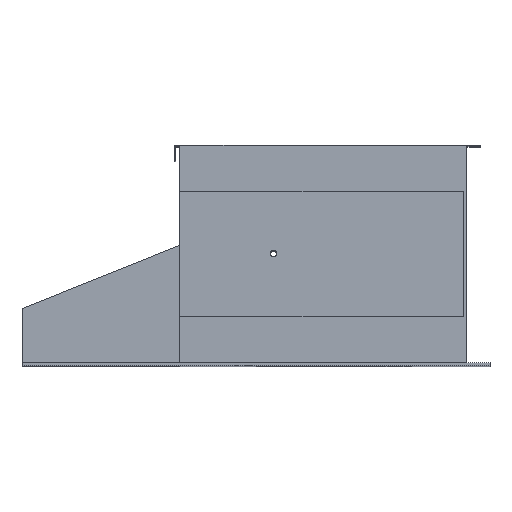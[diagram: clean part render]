
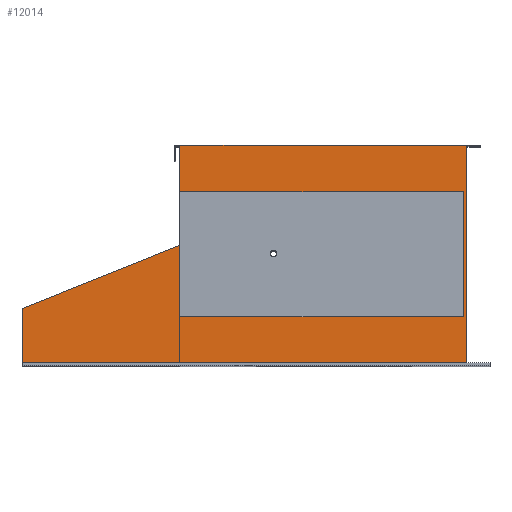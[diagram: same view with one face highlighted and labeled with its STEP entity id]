
A CAD part, top view. The second image highlights one B-rep face of the part: STEP entity #12014.
In plain terms, the highlighted planar face has unit normal (0, 0, 1).
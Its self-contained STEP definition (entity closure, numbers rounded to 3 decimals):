
#653 = CARTESIAN_POINT ( 'NONE',  ( 0., 174.896, 343. ) ) ;
#886 = VECTOR ( 'NONE', #39958, 1000. ) ;
#1389 = VECTOR ( 'NONE', #22359, 1000. ) ;
#1621 = VERTEX_POINT ( 'NONE', #55503 ) ;
#1637 = CARTESIAN_POINT ( 'NONE',  ( 331.485, -97.895, 343. ) ) ;
#1677 = CARTESIAN_POINT ( 'NONE',  ( -122.515, -97.895, 343. ) ) ;
#2138 = DIRECTION ( 'NONE',  ( 0., 1., 0. ) ) ;
#2449 = CARTESIAN_POINT ( 'NONE',  ( -130.515, 176.605, 343. ) ) ;
#3207 = VERTEX_POINT ( 'NONE', #57571 ) ;
#4097 = ORIENTED_EDGE ( 'NONE', *, *, #53834, .F. ) ;
#4270 = LINE ( 'NONE', #11374, #5710 ) ;
#4754 = DIRECTION ( 'NONE',  ( 1., 0., 0. ) ) ;
#4891 = LINE ( 'NONE', #653, #29066 ) ;
#5242 = VECTOR ( 'NONE', #20216, 1000. ) ;
#5460 = EDGE_CURVE ( 'NONE', #26917, #9703, #29325, .T. ) ;
#5710 = VECTOR ( 'NONE', #2138, 1000. ) ;
#7270 = ORIENTED_EDGE ( 'NONE', *, *, #57152, .T. ) ;
#7460 = ORIENTED_EDGE ( 'NONE', *, *, #8383, .F. ) ;
#7783 = CARTESIAN_POINT ( 'NONE',  ( -375.515, -84.895, 343. ) ) ;
#7811 = CARTESIAN_POINT ( 'NONE',  ( 337.485, 174.896, 343. ) ) ;
#8018 = VECTOR ( 'NONE', #46943, 1000. ) ;
#8383 = EDGE_CURVE ( 'NONE', #14198, #27427, #34260, .T. ) ;
#8439 = CARTESIAN_POINT ( 'NONE',  ( 331.485, 102.105, 343. ) ) ;
#8626 = VECTOR ( 'NONE', #4754, 1000. ) ;
#8711 = CARTESIAN_POINT ( 'NONE',  ( -375.515, -171.895, 343. ) ) ;
#9281 = LINE ( 'NONE', #35616, #31956 ) ;
#9703 = VERTEX_POINT ( 'NONE', #7783 ) ;
#9797 = VERTEX_POINT ( 'NONE', #31181 ) ;
#10233 = VECTOR ( 'NONE', #53305, 1000. ) ;
#11306 = VERTEX_POINT ( 'NONE', #17584 ) ;
#11374 = CARTESIAN_POINT ( 'NONE',  ( 331.485, -97.895, 343. ) ) ;
#11449 = EDGE_CURVE ( 'NONE', #31908, #37898, #43063, .T. ) ;
#11999 = VERTEX_POINT ( 'NONE', #7811 ) ;
#12014 = ADVANCED_FACE ( 'NONE', ( #22233 ), #39360, .T. ) ;
#12644 = DIRECTION ( 'NONE',  ( 0., 0., 1. ) ) ;
#13056 = EDGE_CURVE ( 'NONE', #11999, #9797, #4891, .T. ) ;
#14034 = CARTESIAN_POINT ( 'NONE',  ( 337.485, -171.895, 343. ) ) ;
#14198 = VERTEX_POINT ( 'NONE', #2449 ) ;
#14567 = CARTESIAN_POINT ( 'NONE',  ( 0., -171.895, 343. ) ) ;
#14745 = VERTEX_POINT ( 'NONE', #16575 ) ;
#15128 = VECTOR ( 'NONE', #31201, 1000. ) ;
#15338 = CARTESIAN_POINT ( 'NONE',  ( -129.015, 174.896, 343. ) ) ;
#15364 = CARTESIAN_POINT ( 'NONE',  ( 359.485, 176.605, 343. ) ) ;
#16575 = CARTESIAN_POINT ( 'NONE',  ( -129.015, 151.605, 343. ) ) ;
#17331 = CARTESIAN_POINT ( 'NONE',  ( 359.485, 0., 343. ) ) ;
#17584 = CARTESIAN_POINT ( 'NONE',  ( 331.485, -97.895, 343. ) ) ;
#19988 = DIRECTION ( 'NONE',  ( 1., 0., 0. ) ) ;
#20216 = DIRECTION ( 'NONE',  ( 0., 1., 0. ) ) ;
#20306 = CARTESIAN_POINT ( 'NONE',  ( 337.485, 0., 343. ) ) ;
#21042 = CARTESIAN_POINT ( 'NONE',  ( -129.015, 0., 343. ) ) ;
#21628 = CARTESIAN_POINT ( 'NONE',  ( -122.515, -97.895, 343. ) ) ;
#22233 = FACE_OUTER_BOUND ( 'NONE', #23258, .T. ) ;
#22359 = DIRECTION ( 'NONE',  ( 0., -1., 0. ) ) ;
#22435 = VECTOR ( 'NONE', #52462, 1000. ) ;
#22961 = LINE ( 'NONE', #17331, #45119 ) ;
#23258 = EDGE_LOOP ( 'NONE', ( #7270, #47231, #41366, #39616, #56713, #7460, #4097, #57524, #33850, #33164, #44782, #54715, #26964, #30224, #45709, #38689 ) ) ;
#23484 = DIRECTION ( 'NONE',  ( 1., 0., 0. ) ) ;
#23576 = LINE ( 'NONE', #56307, #39567 ) ;
#23704 = EDGE_CURVE ( 'NONE', #1621, #3207, #35623, .T. ) ;
#25697 = AXIS2_PLACEMENT_3D ( 'NONE', #39551, #12644, #43944 ) ;
#26917 = VERTEX_POINT ( 'NONE', #50608 ) ;
#26964 = ORIENTED_EDGE ( 'NONE', *, *, #27471, .F. ) ;
#27427 = VERTEX_POINT ( 'NONE', #15364 ) ;
#27471 = EDGE_CURVE ( 'NONE', #11306, #1621, #4270, .T. ) ;
#27653 = LINE ( 'NONE', #20306, #49677 ) ;
#27918 = VERTEX_POINT ( 'NONE', #1677 ) ;
#28894 = DIRECTION ( 'NONE',  ( 1., 0., 0. ) ) ;
#29066 = VECTOR ( 'NONE', #23484, 1000. ) ;
#29323 = LINE ( 'NONE', #1637, #52708 ) ;
#29325 = LINE ( 'NONE', #46987, #8018 ) ;
#29669 = EDGE_CURVE ( 'NONE', #27427, #9797, #22961, .T. ) ;
#30224 = ORIENTED_EDGE ( 'NONE', *, *, #42647, .F. ) ;
#30777 = EDGE_CURVE ( 'NONE', #37898, #3207, #34712, .T. ) ;
#31181 = CARTESIAN_POINT ( 'NONE',  ( 359.485, 174.896, 343. ) ) ;
#31201 = DIRECTION ( 'NONE',  ( 0., 1., 0. ) ) ;
#31438 = CARTESIAN_POINT ( 'NONE',  ( 0., 176.605, 343. ) ) ;
#31908 = VERTEX_POINT ( 'NONE', #15338 ) ;
#31956 = VECTOR ( 'NONE', #53598, 1000. ) ;
#32331 = EDGE_CURVE ( 'NONE', #11999, #35714, #27653, .T. ) ;
#32843 = VERTEX_POINT ( 'NONE', #32987 ) ;
#32987 = CARTESIAN_POINT ( 'NONE',  ( -130.515, 151.605, 343. ) ) ;
#33164 = ORIENTED_EDGE ( 'NONE', *, *, #11449, .T. ) ;
#33850 = ORIENTED_EDGE ( 'NONE', *, *, #51039, .T. ) ;
#34260 = LINE ( 'NONE', #31438, #10233 ) ;
#34712 = LINE ( 'NONE', #48777, #1389 ) ;
#35616 = CARTESIAN_POINT ( 'NONE',  ( 0., 151.605, 343. ) ) ;
#35623 = LINE ( 'NONE', #8439, #886 ) ;
#35663 = CARTESIAN_POINT ( 'NONE',  ( -130.515, 0., 343. ) ) ;
#35714 = VERTEX_POINT ( 'NONE', #14034 ) ;
#36404 = CARTESIAN_POINT ( 'NONE',  ( 0., 174.896, 343. ) ) ;
#37898 = VERTEX_POINT ( 'NONE', #42332 ) ;
#38689 = ORIENTED_EDGE ( 'NONE', *, *, #5460, .T. ) ;
#39006 = LINE ( 'NONE', #35663, #15128 ) ;
#39027 = DIRECTION ( 'NONE',  ( 0., -1., 0. ) ) ;
#39360 = PLANE ( 'NONE',  #25697 ) ;
#39364 = EDGE_CURVE ( 'NONE', #48819, #35714, #49372, .T. ) ;
#39551 = CARTESIAN_POINT ( 'NONE',  ( 0., 0., 343. ) ) ;
#39567 = VECTOR ( 'NONE', #39027, 1000. ) ;
#39616 = ORIENTED_EDGE ( 'NONE', *, *, #13056, .T. ) ;
#39958 = DIRECTION ( 'NONE',  ( -1., 0., 0. ) ) ;
#40058 = EDGE_CURVE ( 'NONE', #26917, #27918, #44573, .T. ) ;
#40514 = VECTOR ( 'NONE', #19988, 1000. ) ;
#41366 = ORIENTED_EDGE ( 'NONE', *, *, #32331, .F. ) ;
#42332 = CARTESIAN_POINT ( 'NONE',  ( -122.515, 174.896, 343. ) ) ;
#42583 = LINE ( 'NONE', #21042, #5242 ) ;
#42647 = EDGE_CURVE ( 'NONE', #27918, #11306, #29323, .T. ) ;
#43063 = LINE ( 'NONE', #36404, #8626 ) ;
#43944 = DIRECTION ( 'NONE',  ( 1., 0., 0. ) ) ;
#44573 = LINE ( 'NONE', #21628, #22435 ) ;
#44782 = ORIENTED_EDGE ( 'NONE', *, *, #30777, .T. ) ;
#45119 = VECTOR ( 'NONE', #53925, 1000. ) ;
#45709 = ORIENTED_EDGE ( 'NONE', *, *, #40058, .F. ) ;
#46943 = DIRECTION ( 'NONE',  ( -0.928, -0.371, 0. ) ) ;
#46987 = CARTESIAN_POINT ( 'NONE',  ( -22.521, 56.303, 343. ) ) ;
#47231 = ORIENTED_EDGE ( 'NONE', *, *, #39364, .T. ) ;
#48777 = CARTESIAN_POINT ( 'NONE',  ( -122.515, 0., 343. ) ) ;
#48819 = VERTEX_POINT ( 'NONE', #8711 ) ;
#49372 = LINE ( 'NONE', #14567, #40514 ) ;
#49677 = VECTOR ( 'NONE', #51217, 1000. ) ;
#50608 = CARTESIAN_POINT ( 'NONE',  ( -122.515, 16.305, 343. ) ) ;
#51039 = EDGE_CURVE ( 'NONE', #14745, #31908, #42583, .T. ) ;
#51217 = DIRECTION ( 'NONE',  ( 0., -1., 0. ) ) ;
#52462 = DIRECTION ( 'NONE',  ( 0., -1., 0. ) ) ;
#52708 = VECTOR ( 'NONE', #28894, 1000. ) ;
#53305 = DIRECTION ( 'NONE',  ( 1., 0., 0. ) ) ;
#53598 = DIRECTION ( 'NONE',  ( -1., 0., 0. ) ) ;
#53834 = EDGE_CURVE ( 'NONE', #32843, #14198, #39006, .T. ) ;
#53925 = DIRECTION ( 'NONE',  ( 0., -1., 0. ) ) ;
#54715 = ORIENTED_EDGE ( 'NONE', *, *, #23704, .F. ) ;
#55503 = CARTESIAN_POINT ( 'NONE',  ( 331.485, 102.105, 343. ) ) ;
#56307 = CARTESIAN_POINT ( 'NONE',  ( -375.515, 0., 343. ) ) ;
#56667 = EDGE_CURVE ( 'NONE', #14745, #32843, #9281, .T. ) ;
#56713 = ORIENTED_EDGE ( 'NONE', *, *, #29669, .F. ) ;
#57152 = EDGE_CURVE ( 'NONE', #9703, #48819, #23576, .T. ) ;
#57524 = ORIENTED_EDGE ( 'NONE', *, *, #56667, .F. ) ;
#57571 = CARTESIAN_POINT ( 'NONE',  ( -122.515, 102.105, 343. ) ) ;
